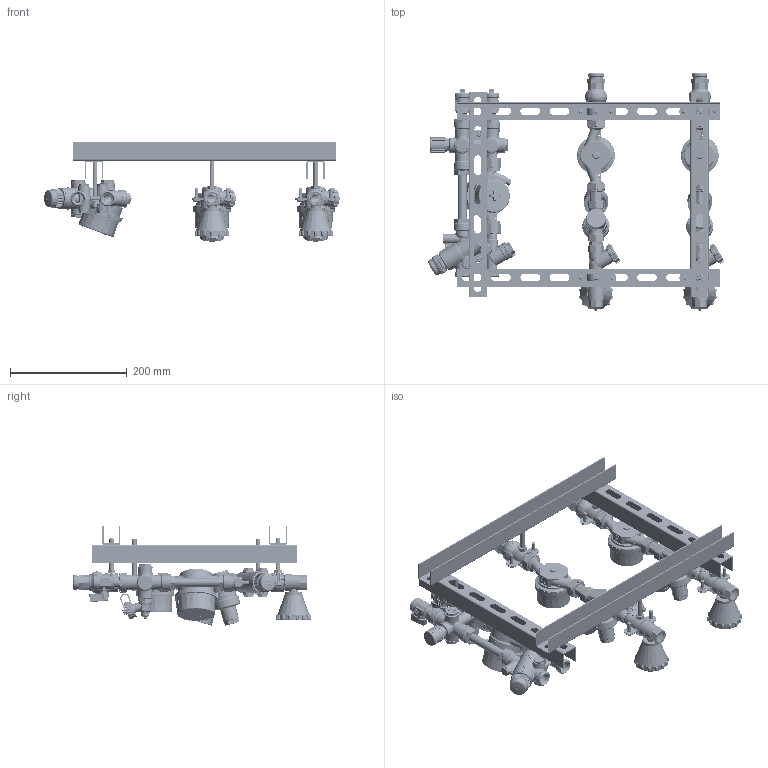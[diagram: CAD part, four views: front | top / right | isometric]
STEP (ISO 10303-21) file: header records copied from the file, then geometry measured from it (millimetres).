
FILE_DESCRIPTION(('STEP AP242'), '1');
FILE_NAME('覆.494726.016.000 捘 - VT.LB.VD.M0', '', ('UNSPECIFIED'), ('UNSPECIFIED'), 'C3D Converter', 'C3D Toolkit', '');
FILE_SCHEMA(('AP242_MANAGED_MODEL_BASED_3D_ENGINEERING_MIM_LF { 1 0 10303 442 1 1 4 }'));
Length unit declared in the file: millimetre
Products named in the file (229): ВР.494726.016.000 СБ; ВР.494726.012.002 СБ; ВР.494726.012.001-01; ВР.494726.002.001.002 СБ; ВР.731371.001; ВР.725140.002; ВР.753125.023; ВР.758421.046; ВР.753612.008; ВР.305319.007.000 СБ; ВР.753125.011; ВР.305319.008.000 СБ; ВР.753125.012; ВР.494726.012.001.001 СБ; ВР.731378.002; ВР.731378.002П; ВР.305319.003.000 СБ; ВР.752513.005; ВР.493619.002.000 СБ; ВР.753191.001; ВР.713161.001; ВР.712221.001; ВР.493619.002.001 СБ; ВР.753157.001; ВР.493619.002.002 СБ; ВР.716623.001; ВР.753512.018; ВР.494726.002.005 СБ; ВР.713791.001; ВР.407223.001.000 СБ; ВР.407223.001.002 СБ; ВР.731464.002; ВР.753182.016; ВР.714411.001; ВР.715113.003; ВР.407223.001.002.002 СБ; ВР.753192.014; ВР.715113.002; ВР.711141.021; ВР.713121.002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
Assembly tree (288 placements, depth 8):
  ВР.494726.016.000 СБ
    ВР.494726.012.002 СБ
      ВР.494726.012.001-01
        ВР.494726.002.001.002 СБ
          ВР.731371.001
          ВР.725140.002
          (unnamed)
            ВР.753125.023
            (unnamed)
          ВР.758421.046
          ВР.753612.008
          ВР.305319.007.000 СБ
            ВР.753125.011
            (unnamed)
          ВР.305319.008.000 СБ  x2
            ВР.753125.012
            (unnamed)
        ВР.494726.012.001.001 СБ
          ВР.731378.002
            ВР.731378.002П
          ВР.758421.046
          ВР.753612.008
          ВР.305319.003.000 СБ
            ВР.752513.005
            (unnamed)
          ВР.493619.002.000 СБ
            ВР.753191.001
            ВР.713161.001
            ВР.712221.001
            (unnamed)
            ВР.493619.002.001 СБ
              ВР.753157.001
              (unnamed)
              (unnamed)
              (unnamed)
            ВР.493619.002.002 СБ
              ВР.716623.001
              (unnamed)
            ВР.753512.018
          ВР.494726.002.005 СБ  x2
            ВР.713791.001
            (unnamed)
        ВР.407223.001.000 СБ
          ВР.407223.001.002 СБ
            ВР.731464.002
            ВР.753182.016
            ВР.714411.001
              ВР.715113.003
            ВР.407223.001.002.002 СБ
              ВР.753192.014
                ВР.715113.002
              ВР.711141.021
              ВР.713121.002
            ВР.711141.022
            ВР.407223.001.002.001 СБ
              ВР.753181.009
              ВР.713141.002
            (unnamed)
            ВР.711141.023
            ВР.711242.002
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Bounding box: 507.06 x 407.92 x 170.04 mm (x, y, z)
Volume: 1453774.9 mm3; surface area: 1141472.2 mm2
Topology: 345 solids, 348 shells, 27854 faces, 75240 edges, 49509 vertices
Faces by surface type: plane 11159, extrusion 7324, cylinder 5774, cone 1581, bspline 1124, torus 817, sphere 75
Full cylindrical faces by diameter (mm): 0.4 x4, 0.6 x23, 0.7 x2, 0.8 x12, 1 x10, 1.1 x308, 1.2 x22, 1.3 x15, 1.5 x53, 1.55 x2, 1.6 x22, 1.66 x4, 1.7 x3, 1.8 x10, 1.9 x5, 2 x33, 2.1 x4, 2.2 x11, 2.3 x2, 2.4 x2, 2.5 x13, 2.6 x1, 2.7 x2, 2.8 x1, 3 x74, 3.242 x2, 3.4 x34, 3.5 x10, 3.6 x5, 3.8 x5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
Entity records: 731235 total; most frequent: CARTESIAN_POINT 346406, ORIENTED_EDGE 80218, DIRECTION 61809, EDGE_CURVE 40114, VERTEX_POINT 27192, VECTOR 22489, AXIS2_PLACEMENT_3D 19660, EDGE_LOOP 18722
